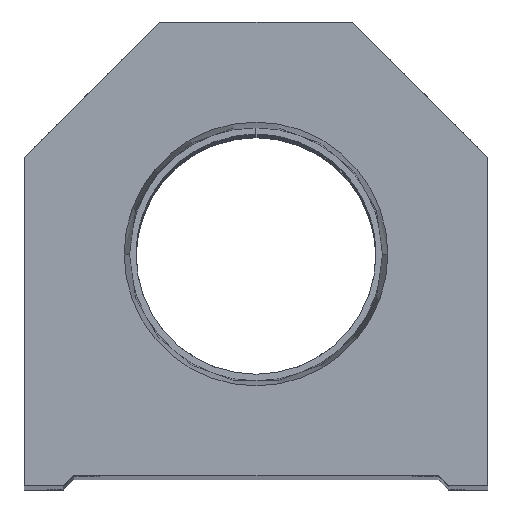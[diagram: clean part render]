
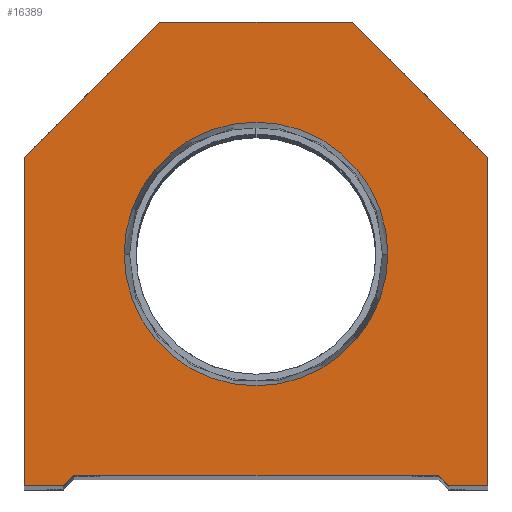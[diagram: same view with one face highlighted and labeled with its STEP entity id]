
A CAD part, top view. The second image highlights one B-rep face of the part: STEP entity #16389.
In plain terms, the highlighted planar face has unit normal (0, 0, 1).
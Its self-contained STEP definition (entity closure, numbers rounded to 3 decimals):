
#355 = DIRECTION ( 'NONE',  ( 0.707, 0.707, 0. ) ) ;
#440 = ORIENTED_EDGE ( 'NONE', *, *, #731, .T. ) ;
#445 = VECTOR ( 'NONE', #8707, 1000. ) ;
#529 = ORIENTED_EDGE ( 'NONE', *, *, #14259, .F. ) ;
#731 = EDGE_CURVE ( 'NONE', #3667, #8357, #10888, .T. ) ;
#1023 = CARTESIAN_POINT ( 'NONE',  ( -22.25, 31.5, 0. ) ) ;
#1104 = VECTOR ( 'NONE', #16788, 1000. ) ;
#1273 = EDGE_CURVE ( 'NONE', #8357, #14369, #2513, .T. ) ;
#1954 = CARTESIAN_POINT ( 'NONE',  ( -22.25, 0., 0. ) ) ;
#2018 = VERTEX_POINT ( 'NONE', #10552 ) ;
#2066 = VECTOR ( 'NONE', #18426, 1000. ) ;
#2154 = ORIENTED_EDGE ( 'NONE', *, *, #10471, .T. ) ;
#2213 = DIRECTION ( 'NONE',  ( 0.707, -0.707, 0. ) ) ;
#2513 = LINE ( 'NONE', #1023, #15535 ) ;
#2666 = DIRECTION ( 'NONE',  ( 1., 0., 0. ) ) ;
#3017 = CARTESIAN_POINT ( 'NONE',  ( 12.647, 22.25, 0. ) ) ;
#3145 = DIRECTION ( 'NONE',  ( 1., 0., 0. ) ) ;
#3166 = DIRECTION ( 'NONE',  ( 1., 0., 0. ) ) ;
#3374 = CIRCLE ( 'NONE', #14811, 12.647 ) ;
#3551 = VECTOR ( 'NONE', #2213, 1000. ) ;
#3588 = DIRECTION ( 'NONE',  ( 1., 0., 0. ) ) ;
#3667 = VERTEX_POINT ( 'NONE', #18211 ) ;
#3769 = EDGE_LOOP ( 'NONE', ( #14787, #5949, #18051, #6494, #2154, #5927, #13192, #440, #12947, #15910 ) ) ;
#3828 = VERTEX_POINT ( 'NONE', #12394 ) ;
#4148 = EDGE_CURVE ( 'NONE', #5737, #3828, #10786, .T. ) ;
#4472 = EDGE_CURVE ( 'NONE', #7423, #2018, #12742, .T. ) ;
#4825 = CARTESIAN_POINT ( 'NONE',  ( 0., 22.25, 0. ) ) ;
#4876 = LINE ( 'NONE', #14039, #17926 ) ;
#5037 = CARTESIAN_POINT ( 'NONE',  ( -12.647, 22.25, 0. ) ) ;
#5254 = AXIS2_PLACEMENT_3D ( 'NONE', #4825, #15569, #11194 ) ;
#5515 = VECTOR ( 'NONE', #3166, 1000. ) ;
#5737 = VERTEX_POINT ( 'NONE', #14283 ) ;
#5915 = FACE_OUTER_BOUND ( 'NONE', #3769, .T. ) ;
#5927 = ORIENTED_EDGE ( 'NONE', *, *, #7145, .T. ) ;
#5949 = ORIENTED_EDGE ( 'NONE', *, *, #4148, .T. ) ;
#6045 = VERTEX_POINT ( 'NONE', #3017 ) ;
#6263 = LINE ( 'NONE', #9060, #2066 ) ;
#6305 = DIRECTION ( 'NONE',  ( -1., 0., 0. ) ) ;
#6318 = LINE ( 'NONE', #1954, #1104 ) ;
#6494 = ORIENTED_EDGE ( 'NONE', *, *, #4472, .T. ) ;
#6573 = AXIS2_PLACEMENT_3D ( 'NONE', #7520, #18078, #3145 ) ;
#6714 = VECTOR ( 'NONE', #355, 1000. ) ;
#7145 = EDGE_CURVE ( 'NONE', #12318, #12468, #14684, .T. ) ;
#7293 = LINE ( 'NONE', #14949, #10704 ) ;
#7423 = VERTEX_POINT ( 'NONE', #12869 ) ;
#7520 = CARTESIAN_POINT ( 'NONE',  ( 0., 0., 0. ) ) ;
#7806 = CARTESIAN_POINT ( 'NONE',  ( 9.25, 44.5, 0. ) ) ;
#7965 = CARTESIAN_POINT ( 'NONE',  ( 9.25, 9.25, 0. ) ) ;
#8332 = EDGE_CURVE ( 'NONE', #3828, #7423, #16398, .T. ) ;
#8357 = VERTEX_POINT ( 'NONE', #14910 ) ;
#8382 = VERTEX_POINT ( 'NONE', #5037 ) ;
#8562 = DIRECTION ( 'NONE',  ( -0.707, -0.707, 0. ) ) ;
#8707 = DIRECTION ( 'NONE',  ( 0., 1., 0. ) ) ;
#9018 = VERTEX_POINT ( 'NONE', #19207 ) ;
#9060 = CARTESIAN_POINT ( 'NONE',  ( -17.5, 0., 0. ) ) ;
#10206 = CARTESIAN_POINT ( 'NONE',  ( 22.25, 0., 0. ) ) ;
#10471 = EDGE_CURVE ( 'NONE', #2018, #12318, #4876, .T. ) ;
#10521 = CARTESIAN_POINT ( 'NONE',  ( 22.25, 0., 0. ) ) ;
#10552 = CARTESIAN_POINT ( 'NONE',  ( 18.5, 0., 0. ) ) ;
#10704 = VECTOR ( 'NONE', #19545, 1000. ) ;
#10786 = LINE ( 'NONE', #13976, #6714 ) ;
#10888 = LINE ( 'NONE', #7806, #17446 ) ;
#11078 = EDGE_CURVE ( 'NONE', #14369, #9018, #6318, .T. ) ;
#11194 = DIRECTION ( 'NONE',  ( 1., 0., 0. ) ) ;
#11665 = EDGE_CURVE ( 'NONE', #9018, #5737, #6263, .T. ) ;
#11836 = EDGE_LOOP ( 'NONE', ( #15114, #529 ) ) ;
#11997 = PLANE ( 'NONE',  #6573 ) ;
#12318 = VERTEX_POINT ( 'NONE', #10521 ) ;
#12394 = CARTESIAN_POINT ( 'NONE',  ( -17.5, 1., 0. ) ) ;
#12468 = VERTEX_POINT ( 'NONE', #18999 ) ;
#12742 = LINE ( 'NONE', #7965, #3551 ) ;
#12869 = CARTESIAN_POINT ( 'NONE',  ( 17.5, 1., 0. ) ) ;
#12947 = ORIENTED_EDGE ( 'NONE', *, *, #1273, .T. ) ;
#13192 = ORIENTED_EDGE ( 'NONE', *, *, #15176, .T. ) ;
#13514 = EDGE_CURVE ( 'NONE', #6045, #8382, #13848, .T. ) ;
#13519 = CARTESIAN_POINT ( 'NONE',  ( -17.5, 1., 0. ) ) ;
#13848 = CIRCLE ( 'NONE', #5254, 12.647 ) ;
#13976 = CARTESIAN_POINT ( 'NONE',  ( -9.25, 9.25, 0. ) ) ;
#14039 = CARTESIAN_POINT ( 'NONE',  ( 17.5, 0., 0. ) ) ;
#14259 = EDGE_CURVE ( 'NONE', #8382, #6045, #3374, .T. ) ;
#14283 = CARTESIAN_POINT ( 'NONE',  ( -18.5, 0., 0. ) ) ;
#14369 = VERTEX_POINT ( 'NONE', #19394 ) ;
#14684 = LINE ( 'NONE', #10206, #445 ) ;
#14787 = ORIENTED_EDGE ( 'NONE', *, *, #11665, .T. ) ;
#14811 = AXIS2_PLACEMENT_3D ( 'NONE', #17878, #16287, #2666 ) ;
#14910 = CARTESIAN_POINT ( 'NONE',  ( -9.25, 44.5, 0. ) ) ;
#14949 = CARTESIAN_POINT ( 'NONE',  ( 22.25, 31.5, 0. ) ) ;
#15114 = ORIENTED_EDGE ( 'NONE', *, *, #13514, .F. ) ;
#15176 = EDGE_CURVE ( 'NONE', #12468, #3667, #7293, .T. ) ;
#15535 = VECTOR ( 'NONE', #8562, 1000. ) ;
#15569 = DIRECTION ( 'NONE',  ( 0., 0., 1. ) ) ;
#15910 = ORIENTED_EDGE ( 'NONE', *, *, #11078, .T. ) ;
#16287 = DIRECTION ( 'NONE',  ( 0., 0., 1. ) ) ;
#16389 = ADVANCED_FACE ( 'NONE', ( #19581, #5915 ), #11997, .T. ) ;
#16398 = LINE ( 'NONE', #13519, #5515 ) ;
#16788 = DIRECTION ( 'NONE',  ( 0., -1., 0. ) ) ;
#17446 = VECTOR ( 'NONE', #6305, 1000. ) ;
#17878 = CARTESIAN_POINT ( 'NONE',  ( 0., 22.25, 0. ) ) ;
#17926 = VECTOR ( 'NONE', #3588, 1000. ) ;
#18051 = ORIENTED_EDGE ( 'NONE', *, *, #8332, .T. ) ;
#18078 = DIRECTION ( 'NONE',  ( 0., 0., 1. ) ) ;
#18211 = CARTESIAN_POINT ( 'NONE',  ( 9.25, 44.5, 0. ) ) ;
#18426 = DIRECTION ( 'NONE',  ( 1., 0., 0. ) ) ;
#18999 = CARTESIAN_POINT ( 'NONE',  ( 22.25, 31.5, 0. ) ) ;
#19207 = CARTESIAN_POINT ( 'NONE',  ( -22.25, 0., 0. ) ) ;
#19394 = CARTESIAN_POINT ( 'NONE',  ( -22.25, 31.5, 0. ) ) ;
#19545 = DIRECTION ( 'NONE',  ( -0.707, 0.707, 0. ) ) ;
#19581 = FACE_BOUND ( 'NONE', #11836, .T. ) ;
